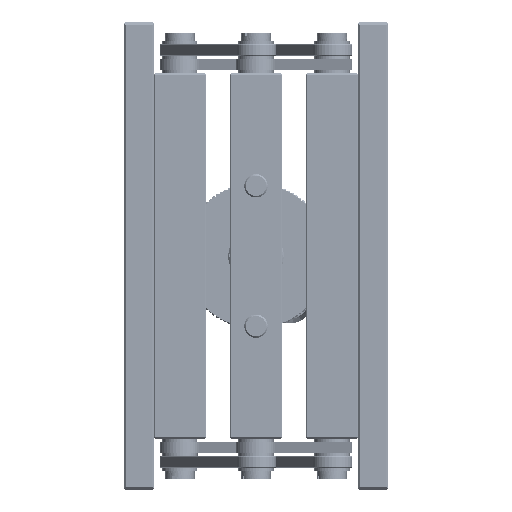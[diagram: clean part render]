
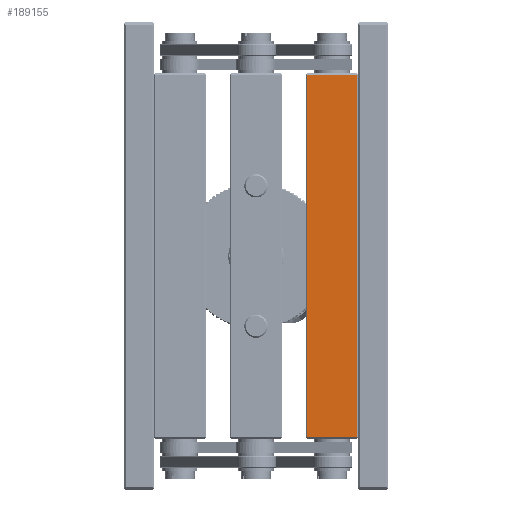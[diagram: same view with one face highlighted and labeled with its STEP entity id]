
A CAD part, left-side view. The second image highlights one B-rep face of the part: STEP entity #189155.
In plain terms, the highlighted planar face has unit normal (-1, 0, 0).
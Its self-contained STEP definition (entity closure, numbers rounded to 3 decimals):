
#3171 = VECTOR ( 'NONE', #227733, 1000. ) ;
#14448 = FACE_OUTER_BOUND ( 'NONE', #20276, .T. ) ;
#20276 = EDGE_LOOP ( 'NONE', ( #91805, #134752, #239864, #118920 ) ) ;
#32391 = VERTEX_POINT ( 'NONE', #190567 ) ;
#35527 = LINE ( 'NONE', #170467, #158951 ) ;
#53426 = VECTOR ( 'NONE', #197731, 1000. ) ;
#55636 = VERTEX_POINT ( 'NONE', #109575 ) ;
#81680 = AXIS2_PLACEMENT_3D ( 'NONE', #163346, #183468, #224981 ) ;
#82873 = CARTESIAN_POINT ( 'NONE',  ( -189.612, -71.915, -1.282 ) ) ;
#91805 = ORIENTED_EDGE ( 'NONE', *, *, #102761, .T. ) ;
#96046 = DIRECTION ( 'NONE',  ( 0., 1., 0. ) ) ;
#100574 = DIRECTION ( 'NONE',  ( 0., 0., 1. ) ) ;
#102761 = EDGE_CURVE ( 'NONE', #55636, #121400, #217767, .T. ) ;
#106566 = PLANE ( 'NONE',  #81680 ) ;
#109575 = CARTESIAN_POINT ( 'NONE',  ( -189.612, -71.915, -125.782 ) ) ;
#118920 = ORIENTED_EDGE ( 'NONE', *, *, #144537, .T. ) ;
#121400 = VERTEX_POINT ( 'NONE', #139612 ) ;
#134752 = ORIENTED_EDGE ( 'NONE', *, *, #220099, .T. ) ;
#139612 = CARTESIAN_POINT ( 'NONE',  ( -189.612, -71.915, -1.782 ) ) ;
#144537 = EDGE_CURVE ( 'NONE', #32391, #55636, #196478, .T. ) ;
#149633 = VECTOR ( 'NONE', #100574, 1000. ) ;
#149963 = VERTEX_POINT ( 'NONE', #178200 ) ;
#151644 = EDGE_CURVE ( 'NONE', #149963, #32391, #245475, .T. ) ;
#153351 = CARTESIAN_POINT ( 'NONE',  ( -189.612, -54.915, -126.282 ) ) ;
#158951 = VECTOR ( 'NONE', #96046, 1000. ) ;
#163346 = CARTESIAN_POINT ( 'NONE',  ( -189.612, -72.415, -1.282 ) ) ;
#170467 = CARTESIAN_POINT ( 'NONE',  ( -189.612, -54.415, -1.782 ) ) ;
#178200 = CARTESIAN_POINT ( 'NONE',  ( -189.612, -54.915, -1.782 ) ) ;
#183468 = DIRECTION ( 'NONE',  ( -1., 0., 0. ) ) ;
#189155 = ADVANCED_FACE ( 'NONE', ( #14448 ), #106566, .T. ) ;
#190567 = CARTESIAN_POINT ( 'NONE',  ( -189.612, -54.915, -125.782 ) ) ;
#196478 = LINE ( 'NONE', #200214, #53426 ) ;
#197731 = DIRECTION ( 'NONE',  ( 0., -1., 0. ) ) ;
#200214 = CARTESIAN_POINT ( 'NONE',  ( -189.612, -72.415, -125.782 ) ) ;
#217767 = LINE ( 'NONE', #82873, #149633 ) ;
#220099 = EDGE_CURVE ( 'NONE', #121400, #149963, #35527, .T. ) ;
#224981 = DIRECTION ( 'NONE',  ( 0., 0., 1. ) ) ;
#227733 = DIRECTION ( 'NONE',  ( 0., 0., -1. ) ) ;
#239864 = ORIENTED_EDGE ( 'NONE', *, *, #151644, .T. ) ;
#245475 = LINE ( 'NONE', #153351, #3171 ) ;
